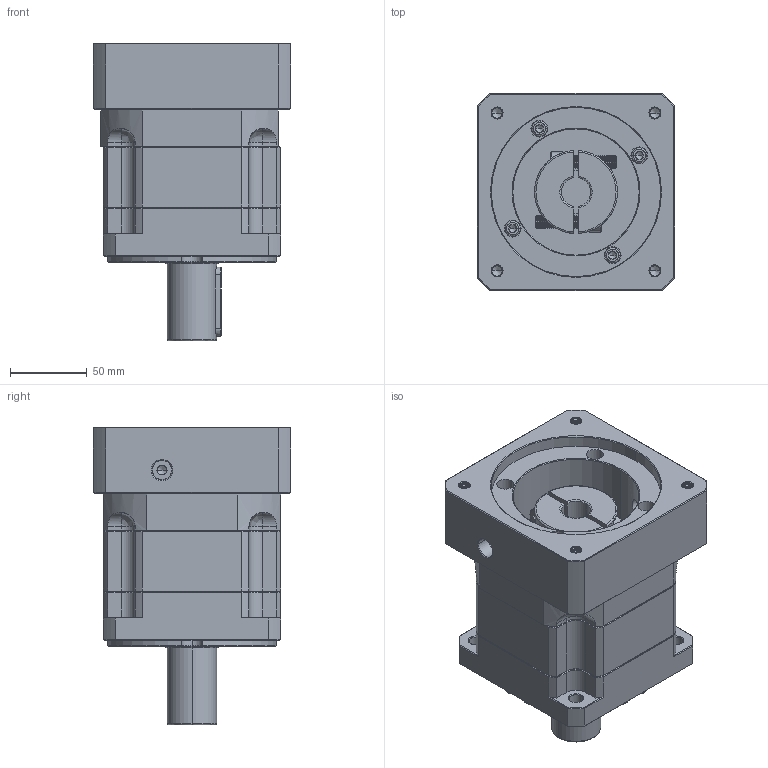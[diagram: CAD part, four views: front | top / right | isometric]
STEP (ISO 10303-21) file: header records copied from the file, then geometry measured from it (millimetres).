
FILE_DESCRIPTION (( 'STEP AP214' ), '1' );
FILE_NAME ('ZB115A-D32-L1-19-110-145-M8.step', '2023-03-02T08:59:22', ( '' ), ( 'Microsoft' ), 'SwSTEP 2.0', 'SolidWorks 2016', '' );
FILE_SCHEMA (( 'AUTOMOTIVE_DESIGN' ));
Length unit declared in the file: millimetre
Products named in the file (1): ZB115A-D32-L1-19-110-145-M8
Bounding box: 128 x 128 x 193.5 mm (x, y, z)
Volume: 1629918.7 mm3; surface area: 178897.5 mm2
Topology: 6 solids, 6 shells, 2114 faces, 5464 edges, 3444 vertices
Faces by surface type: plane 963, cylinder 439, cone 367, bspline 325, torus 20
Entity records: 113406 total; most frequent: CARTESIAN_POINT 41500, ORIENTED_EDGE 10860, DIRECTION 8906, EDGE_CURVE 5430, VERTEX_POINT 3444, LINE 3372, VECTOR 3372, AXIS2_PLACEMENT_3D 2767
